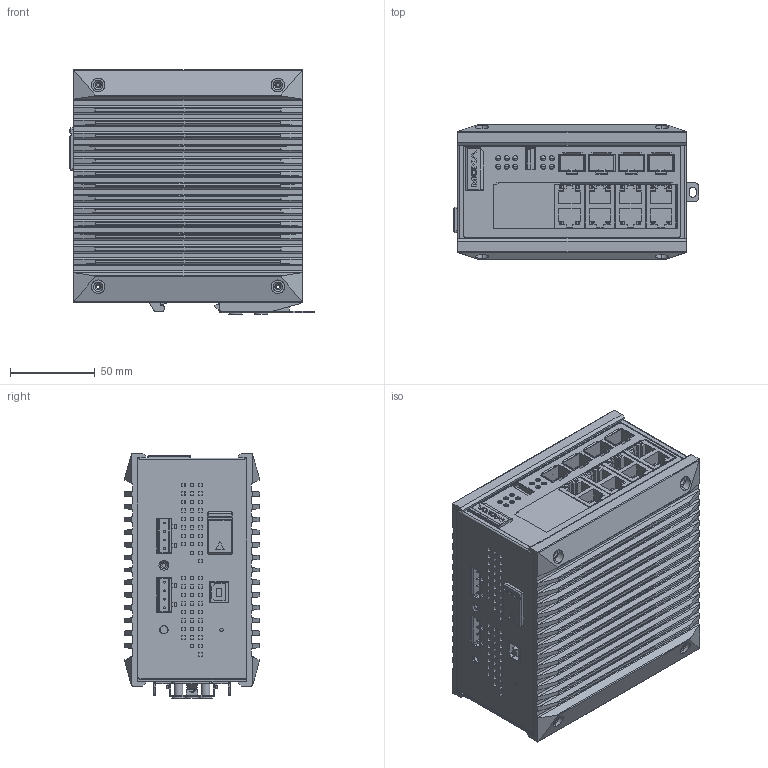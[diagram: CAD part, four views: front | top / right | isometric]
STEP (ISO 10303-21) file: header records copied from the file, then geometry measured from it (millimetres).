
FILE_DESCRIPTION((''),'2;1');
FILE_NAME('EDS-G512_NEW','2013-09-13T',('Sam_Liu'),(''),'PRO/ENGINEER BY PARAMETRIC TECHNOLOGY CORPORATION, 2009360','PRO/ENGINEER BY PARAMETRIC TECHNOLOGY CORPORATION, 2009360','');
FILE_SCHEMA(('CONFIG_CONTROL_DESIGN'));
Products named in the file (1): EDS-G512_NEW
Bounding box: 144.7 x 79.8 x 144.2 mm (x, y, z)
Volume: 329864.5 mm3; surface area: 421200.6 mm2
Topology: 13 solids, 34 shells, 4210 faces, 10890 edges, 7073 vertices
Faces by surface type: plane 2569, cylinder 1306, cone 168, torus 100, bspline 54, sphere 9, extrusion 4
Entity records: 133954 total; most frequent: CARTESIAN_POINT 28441, DIRECTION 21763, ORIENTED_EDGE 21692, EDGE_CURVE 10882, VECTOR 7377, LINE 7373, AXIS2_PLACEMENT_3D 7193, VERTEX_POINT 7073
